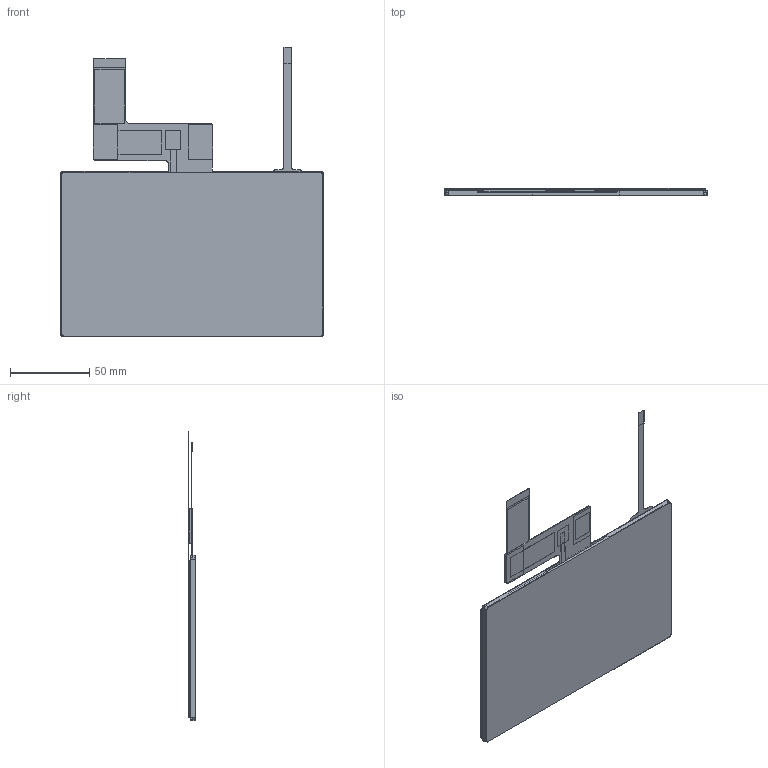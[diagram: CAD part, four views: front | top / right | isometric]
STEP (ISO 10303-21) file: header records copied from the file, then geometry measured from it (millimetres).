
FILE_DESCRIPTION (( 'STEP AP203' ), '1' );
FILE_NAME ('NHD-7.0-800480AF-ASXP-T_Rev1A.STEP', '2024-06-28T20:27:05', ( '' ), ( '' ), 'SwSTEP 2.0', 'SolidWorks 2019', '' );
FILE_SCHEMA (( 'CONFIG_CONTROL_DESIGN' ));
Length unit declared in the file: millimetre
Products named in the file (2): NHD-7.0-800480AF-ASXP-T_Rev1A
Bounding box: 165 x 4.7 x 182.17 mm (x, y, z)
Volume: 69063.8 mm3; surface area: 132470.6 mm2
Topology: 10 solids, 10 shells, 259 faces, 692 edges, 461 vertices
Faces by surface type: plane 197, cylinder 62
Entity records: 8171 total; most frequent: CARTESIAN_POINT 1414, ORIENTED_EDGE 1384, DIRECTION 1338, EDGE_CURVE 692, LINE 568, VECTOR 568, VERTEX_POINT 461, AXIS2_PLACEMENT_3D 385
